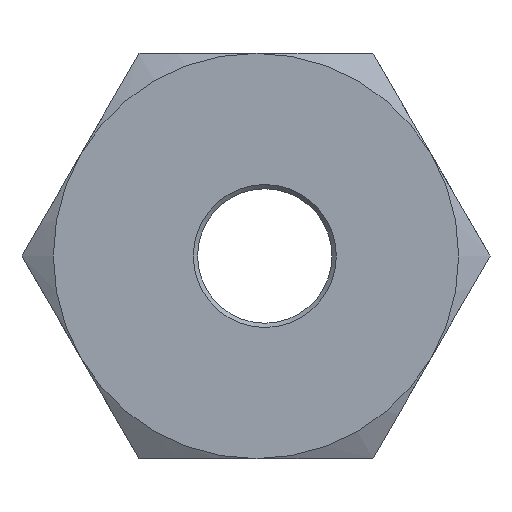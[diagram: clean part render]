
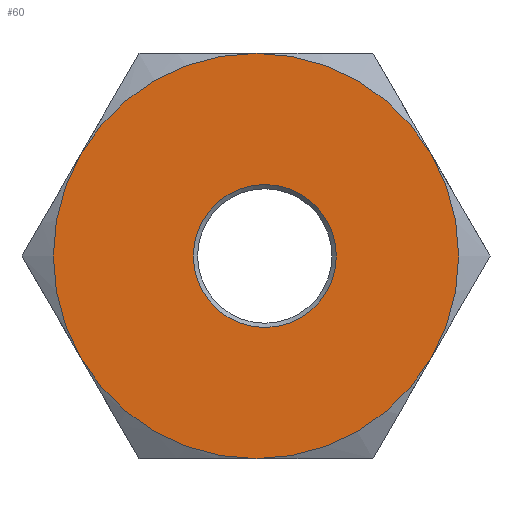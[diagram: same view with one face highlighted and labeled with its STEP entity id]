
A CAD part, left-side view. The second image highlights one B-rep face of the part: STEP entity #60.
In plain terms, the highlighted planar face has unit normal (-1, 0, 0).
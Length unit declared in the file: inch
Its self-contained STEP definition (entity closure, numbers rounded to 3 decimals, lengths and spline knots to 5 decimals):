
#60 = ADVANCED_FACE( '', ( #138, #139 ), #140, .F. );
#138 = FACE_OUTER_BOUND( '', #238, .T. );
#139 = FACE_BOUND( '', #239, .T. );
#140 = PLANE( '', #240 );
#238 = EDGE_LOOP( '', ( #345, #346, #347, #348, #349, #350 ) );
#239 = EDGE_LOOP( '', ( #351 ) );
#240 = AXIS2_PLACEMENT_3D( '', #352, #353, #354 );
#345 = ORIENTED_EDGE( '', *, *, #549, .F. );
#346 = ORIENTED_EDGE( '', *, *, #550, .F. );
#347 = ORIENTED_EDGE( '', *, *, #551, .F. );
#348 = ORIENTED_EDGE( '', *, *, #552, .F. );
#349 = ORIENTED_EDGE( '', *, *, #547, .F. );
#350 = ORIENTED_EDGE( '', *, *, #553, .F. );
#351 = ORIENTED_EDGE( '', *, *, #554, .T. );
#352 = CARTESIAN_POINT( '', ( 0., 0., 0. ) );
#353 = DIRECTION( '', ( 1., 0., 0. ) );
#354 = DIRECTION( '', ( 0., 0., -1. ) );
#547 = EDGE_CURVE( '', #635, #632, #637, .T. );
#549 = EDGE_CURVE( '', #639, #640, #641, .T. );
#550 = EDGE_CURVE( '', #642, #639, #643, .T. );
#551 = EDGE_CURVE( '', #644, #642, #645, .T. );
#552 = EDGE_CURVE( '', #632, #644, #646, .T. );
#553 = EDGE_CURVE( '', #640, #635, #647, .T. );
#554 = EDGE_CURVE( '', #648, #648, #649, .T. );
#632 = VERTEX_POINT( '', #757 );
#635 = VERTEX_POINT( '', #767 );
#637 = CIRCLE( '', #774, 0.23622 );
#639 = VERTEX_POINT( '', #776 );
#640 = VERTEX_POINT( '', #777 );
#641 = CIRCLE( '', #778, 0.23622 );
#642 = VERTEX_POINT( '', #779 );
#643 = CIRCLE( '', #780, 0.23622 );
#644 = VERTEX_POINT( '', #781 );
#645 = CIRCLE( '', #782, 0.23622 );
#646 = CIRCLE( '', #783, 0.23622 );
#647 = CIRCLE( '', #784, 0.23622 );
#648 = VERTEX_POINT( '', #785 );
#649 = CIRCLE( '', #786, 0.08335 );
#757 = CARTESIAN_POINT( '', ( 0., -0.20457, 0.11811 ) );
#767 = CARTESIAN_POINT( '', ( 0., 0., 0.23622 ) );
#774 = AXIS2_PLACEMENT_3D( '', #987, #988, #989 );
#776 = CARTESIAN_POINT( '', ( 0., 0.20457, -0.11811 ) );
#777 = CARTESIAN_POINT( '', ( 0., 0.20457, 0.11811 ) );
#778 = AXIS2_PLACEMENT_3D( '', #990, #991, #992 );
#779 = CARTESIAN_POINT( '', ( 0., 0., -0.23622 ) );
#780 = AXIS2_PLACEMENT_3D( '', #993, #994, #995 );
#781 = CARTESIAN_POINT( '', ( 0., -0.20457, -0.11811 ) );
#782 = AXIS2_PLACEMENT_3D( '', #996, #997, #998 );
#783 = AXIS2_PLACEMENT_3D( '', #999, #1000, #1001 );
#784 = AXIS2_PLACEMENT_3D( '', #1002, #1003, #1004 );
#785 = CARTESIAN_POINT( '', ( 0., -0.01024, -0.08335 ) );
#786 = AXIS2_PLACEMENT_3D( '', #1005, #1006, #1007 );
#987 = CARTESIAN_POINT( '', ( 0., 0., 0. ) );
#988 = DIRECTION( '', ( 1., 0., 0. ) );
#989 = DIRECTION( '', ( 0., 0., -1. ) );
#990 = CARTESIAN_POINT( '', ( 0., 0., 0. ) );
#991 = DIRECTION( '', ( 1., 0., 0. ) );
#992 = DIRECTION( '', ( 0., 0., -1. ) );
#993 = CARTESIAN_POINT( '', ( 0., 0., 0. ) );
#994 = DIRECTION( '', ( 1., 0., 0. ) );
#995 = DIRECTION( '', ( 0., 0., -1. ) );
#996 = CARTESIAN_POINT( '', ( 0., 0., 0. ) );
#997 = DIRECTION( '', ( 1., 0., 0. ) );
#998 = DIRECTION( '', ( 0., 0., -1. ) );
#999 = CARTESIAN_POINT( '', ( 0., 0., 0. ) );
#1000 = DIRECTION( '', ( 1., 0., 0. ) );
#1001 = DIRECTION( '', ( 0., 0., -1. ) );
#1002 = CARTESIAN_POINT( '', ( 0., 0., 0. ) );
#1003 = DIRECTION( '', ( 1., 0., 0. ) );
#1004 = DIRECTION( '', ( 0., 0., -1. ) );
#1005 = CARTESIAN_POINT( '', ( 0., -0.01024, 0. ) );
#1006 = DIRECTION( '', ( 1., 0., 0. ) );
#1007 = DIRECTION( '', ( 0., 0., -1. ) );
